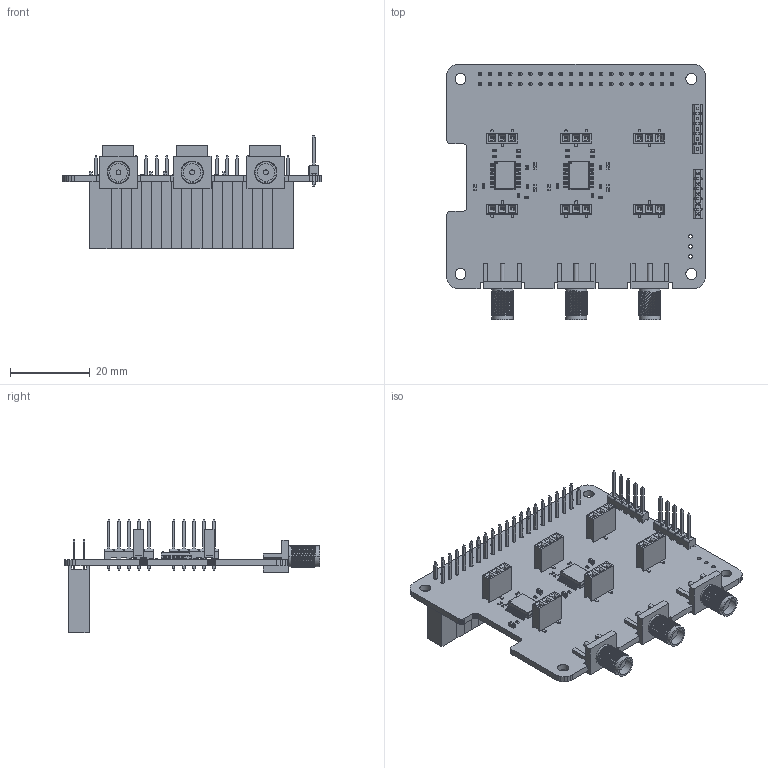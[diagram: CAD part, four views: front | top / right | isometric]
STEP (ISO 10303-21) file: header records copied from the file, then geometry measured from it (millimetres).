
FILE_DESCRIPTION(('for SolidWorks'),'2;1');
FILE_NAME('C:\Users\Efrem-PC\Desktop\3D DESIGNS\Atlas Products\Carrier Boards\i3-3D.step','2024-05-09T18:56:12',('Efrem-PC'),(''), 'Open CASCADE STEP processor 6.6','DipTrace','Unknown');
FILE_SCHEMA(('AUTOMOTIVE_DESIGN { 1 0 10303 214 1 1 1 1 }'));
Length unit declared in the file: millimetre
Products named in the file (9): PCB_i3-3D; Board_i3-3D; ssop-20; hdr-1x5t_2.54_12x2; hdrf-2x20t_2.54x2.54_51x5; SMA_edge_mount; hdrf-1x3sz_2.54_8x4; res_0402; cap_0603
Assembly tree (39 placements, depth 2):
  PCB_i3-3D
    Board_i3-3D
    ssop-20  x2
    hdr-1x5t_2.54_12x2  x2
    hdrf-2x20t_2.54x2.54_51x5
    SMA_edge_mount  x3
    hdrf-1x3sz_2.54_8x4  x6
    res_0402  x18
    cap_0603  x6
Bounding box: 65 x 64.32 x 28.54 mm (x, y, z)
Volume: 6618.2 mm3; surface area: 21957 mm2
Topology: 30 solids, 230 shells, 6307 faces, 12546 edges, 6770 vertices
Faces by surface type: plane 4299, bspline 1605, cylinder 403
Full cylindrical faces by diameter (mm): 0.4 x2, 0.9 x71, 2.75 x4
Entity records: 83665 total; most frequent: CARTESIAN_POINT 24315, ORIENTED_EDGE 11118, EDGE_CURVE 5559, DIRECTION 3890, B_SPLINE_CURVE_WITH_KNOTS 3655, VERTEX_POINT 3496, FACE_BOUND 2599, EDGE_LOOP 2599
